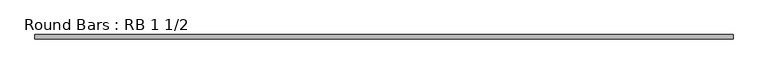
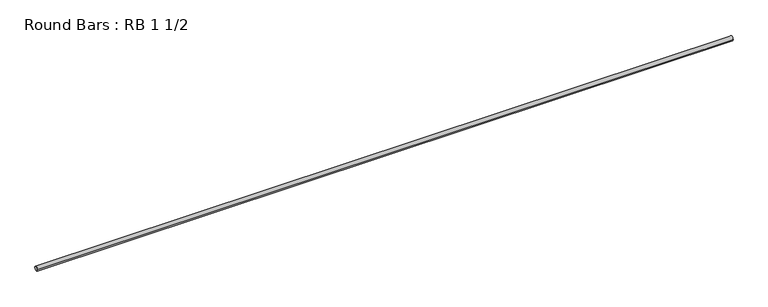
"""IFC4 building model written with IfcOpenShell, lengths in millimetres: member geometry, Round Bars : RB 1 1/2."""

from ifc_helpers import new_model, si_unit, point, frame, origin, origin_2d, place, context, project, spatial, circle_curve, trimmed, segment, composite_curve, outline, extrude, source, transform, mapped, element, save


def round_bars_rb_1_1_2_2b00b016(model_context):
    return source(origin(), model_context, "Body", "SweptSolid", [
        extrude(outline(composite_curve([segment(trimmed(circle_curve(origin_2d(), 19.05), [point((19.05, 0.0))], [point((-19.05, 0.0))], False, "CARTESIAN"), True, "CONTINUOUS"), segment(trimmed(circle_curve(origin_2d(), 19.05), [point((-19.05, 0.0))], [point((19.05, 0.0))], False, "CARTESIAN"), True, "CONTINUOUS")], self_intersect=False)), frame((-3138.4363617, 0.0, 0.0), z_axis=(1.0, 0.0, 0.0), x_axis=(0.0, 1.0, 0.0)), (0.0, 0.0, 1.0), 5968.5309416),
    ])


if __name__ == "__main__":
    model = new_model("IFC4")
    model_context = context("Model", 3, world=origin())
    ifc_project = project(units=[si_unit("LENGTHUNIT", "METRE", prefix="MILLI")], contexts=[model_context])
    site = spatial("IfcSite", under=ifc_project)
    building = spatial("IfcBuilding", under=site)
    placement = place(None, origin())
    round_bars_rb_1_1_2_shape = round_bars_rb_1_1_2_2b00b016(model_context)
    element("IfcMember", 1, ObjectType="Round Bars : RB 1 1/2", at=placement, inside=building, context=model_context, shape_type="MappedRepresentation", body=[
        mapped(round_bars_rb_1_1_2_shape, transform((0.0, 0.0, 0.0), x_axis=(1.0, 0.0, 0.0), y_axis=(0.0, 1.0, 0.0), z_axis=(0.0, 0.0, 1.0))),
    ])
    save(model, "model.ifc")
